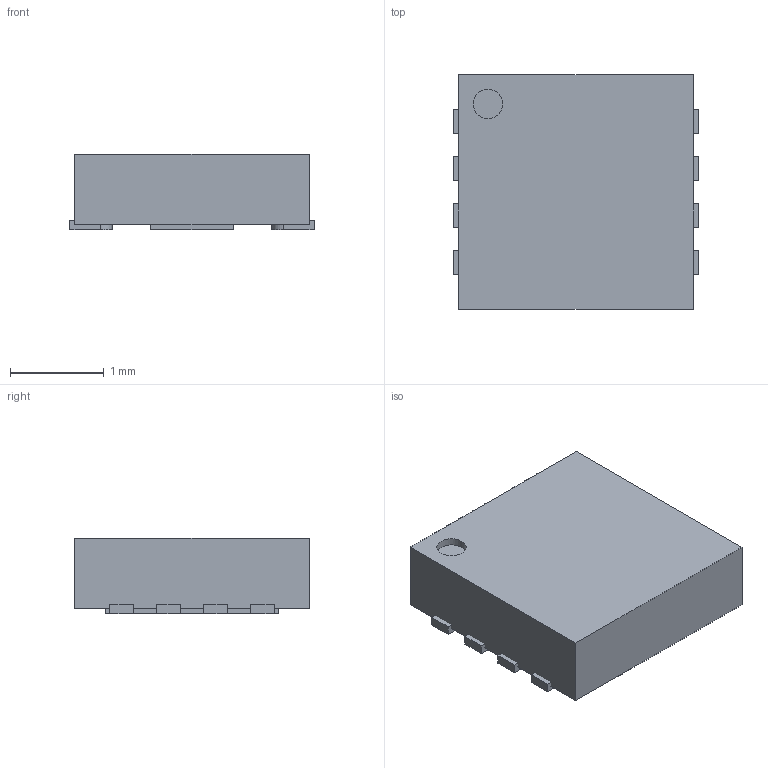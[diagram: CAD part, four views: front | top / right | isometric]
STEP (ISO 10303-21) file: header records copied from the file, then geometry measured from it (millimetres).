
FILE_DESCRIPTION(('FreeCAD Model'),'2;1');
FILE_NAME('/var/www/3D/0T/18405322.1.1.stp','2023-08-03T15:23:51',( 'Author'),(''),'Open CASCADE STEP processor 6.9','FreeCAD','Unknown' );
FILE_SCHEMA(('AUTOMOTIVE_DESIGN { 1 0 10303 214 1 1 1 1 }'));
Length unit declared in the file: millimetre
Products named in the file (4): ASSEMBLY; Body; ThermalPin; PinsArrayLR
Assembly tree (3 placements, depth 2):
  ASSEMBLY
    Body
    ThermalPin
    PinsArrayLR
Bounding box: 2.6 x 2.5 x 0.8 mm (x, y, z)
Volume: 4.9 mm3; surface area: 26.6 mm2
Topology: 10 solids, 10 shells, 62 faces, 123 edges, 82 vertices
Faces by surface type: plane 53, cylinder 9
Full cylindrical faces by diameter (mm): 0.312 x1
Entity records: 3349 total; most frequent: CARTESIAN_POINT 565, DIRECTION 511, LINE 333, VECTOR 333, ORIENTED_EDGE 246, PCURVE 246, DEFINITIONAL_REPRESENTATION 246, EDGE_CURVE 123
